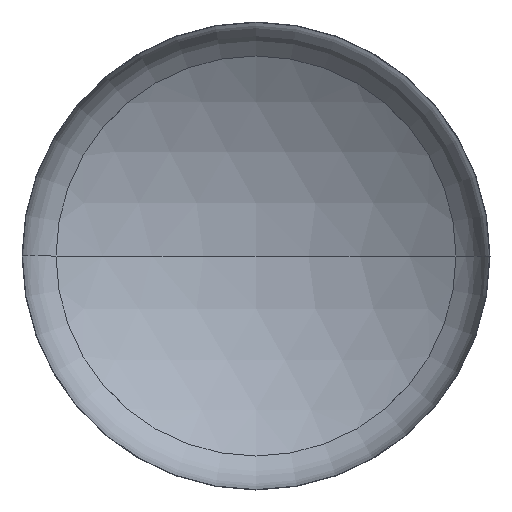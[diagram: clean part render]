
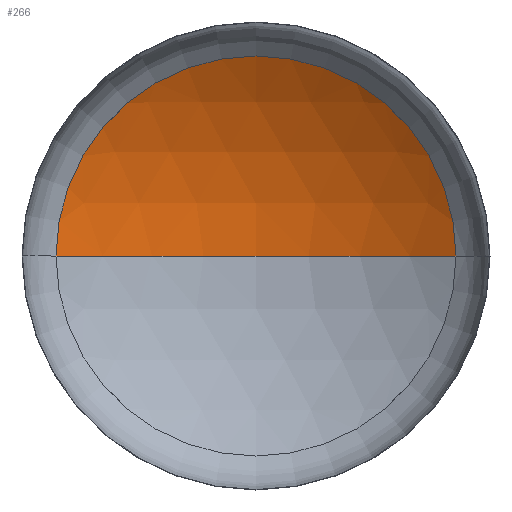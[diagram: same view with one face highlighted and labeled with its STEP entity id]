
A CAD part, front view. The second image highlights one B-rep face of the part: STEP entity #266.
In plain terms, the highlighted spherical face has radius 2880 mm.
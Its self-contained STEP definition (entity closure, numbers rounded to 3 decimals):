
#4 = EDGE_LOOP ( 'NONE', ( #161, #158, #214 ) ) ;
#9 = DIRECTION ( 'NONE',  ( 0., 0., -1. ) ) ;
#10 = AXIS2_PLACEMENT_3D ( 'NONE', #31, #17, #20 ) ;
#17 = DIRECTION ( 'NONE',  ( 0., 0., -1. ) ) ;
#20 = DIRECTION ( 'NONE',  ( -1., 0., 0. ) ) ;
#30 = AXIS2_PLACEMENT_3D ( 'NONE', #193, #362, #242 ) ;
#31 = CARTESIAN_POINT ( 'NONE',  ( 0., -1945.467, 0. ) ) ;
#32 = AXIS2_PLACEMENT_3D ( 'NONE', #337, #9, #187 ) ;
#33 = AXIS2_PLACEMENT_3D ( 'NONE', #196, #388, #364 ) ;
#97 = VERTEX_POINT ( 'NONE', #351 ) ;
#99 = EDGE_CURVE ( 'NONE', #136, #97, #293, .T. ) ;
#104 = EDGE_CURVE ( 'NONE', #132, #136, #358, .T. ) ;
#107 = EDGE_CURVE ( 'NONE', #132, #97, #149, .T. ) ;
#123 = SPHERICAL_SURFACE ( 'NONE', #10, 2880. ) ;
#132 = VERTEX_POINT ( 'NONE', #202 ) ;
#136 = VERTEX_POINT ( 'NONE', #260 ) ;
#149 = CIRCLE ( 'NONE', #30, 2880. ) ;
#158 = ORIENTED_EDGE ( 'NONE', *, *, #104, .T. ) ;
#161 = ORIENTED_EDGE ( 'NONE', *, *, #107, .F. ) ;
#187 = DIRECTION ( 'NONE',  ( -1., 0., 0. ) ) ;
#193 = CARTESIAN_POINT ( 'NONE',  ( 0., -1945.467, 0. ) ) ;
#196 = CARTESIAN_POINT ( 'NONE',  ( 0., 489.176, 0. ) ) ;
#202 = CARTESIAN_POINT ( 'NONE',  ( 0., 934.533, 0. ) ) ;
#214 = ORIENTED_EDGE ( 'NONE', *, *, #99, .T. ) ;
#242 = DIRECTION ( 'NONE',  ( 1., 0., 0. ) ) ;
#260 = CARTESIAN_POINT ( 'NONE',  ( 1538.477, 489.176, 0. ) ) ;
#266 = ADVANCED_FACE ( 'NONE', ( #283 ), #123, .F. ) ;
#283 = FACE_OUTER_BOUND ( 'NONE', #4, .T. ) ;
#293 = CIRCLE ( 'NONE', #33, 1538.477 ) ;
#337 = CARTESIAN_POINT ( 'NONE',  ( 0., -1945.467, 0. ) ) ;
#351 = CARTESIAN_POINT ( 'NONE',  ( -1538.477, 489.176, 0. ) ) ;
#358 = CIRCLE ( 'NONE', #32, 2880. ) ;
#362 = DIRECTION ( 'NONE',  ( 0., 0., 1. ) ) ;
#364 = DIRECTION ( 'NONE',  ( 1., 0., 0. ) ) ;
#388 = DIRECTION ( 'NONE',  ( 0., -1., 0. ) ) ;
